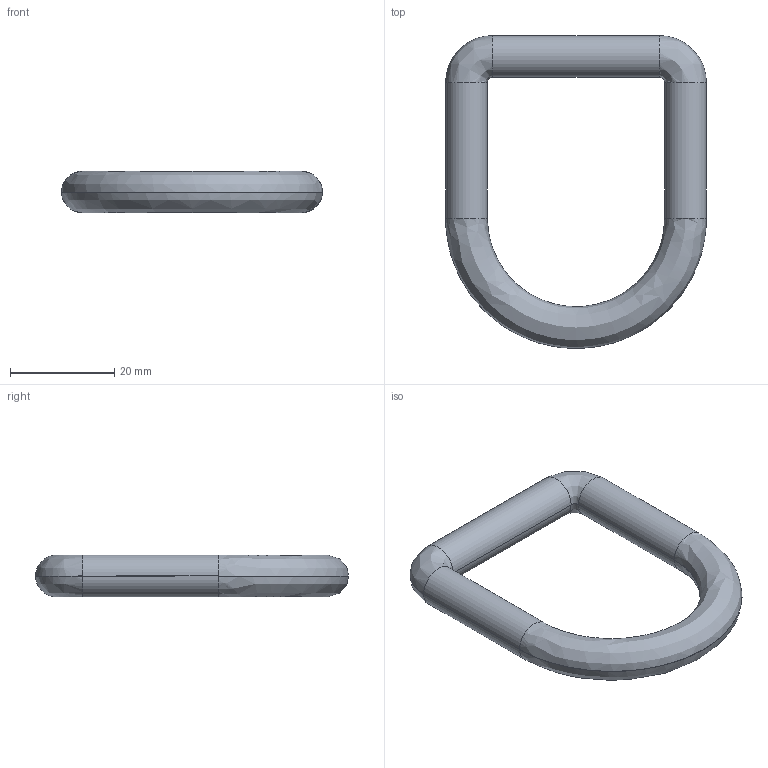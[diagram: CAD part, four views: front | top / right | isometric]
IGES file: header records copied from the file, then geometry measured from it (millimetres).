
Start section: SolidWorks IGES FILE using analytic representation for surfaces
Global section: file name: \\Srv-compta\user\CBRECHARD\Mes documents\ATAO iges\Gamme PE\PE 350\350.030.00.IGS; native system: SolidWorks 2004 by SolidWorks Corporation; preprocessor: Version 5.3; author: Administrateur; date: 070918.161740; units: millimetre
Bounding box: 50 x 59.98 x 8 mm (x, y, z)
Surface area: 4164 mm2 (no closed solid volume)
Topology: 0 solids, 0 shells, 12 faces, 48 edges, 48 vertices
Faces by surface type: bspline 6, revolution 6
